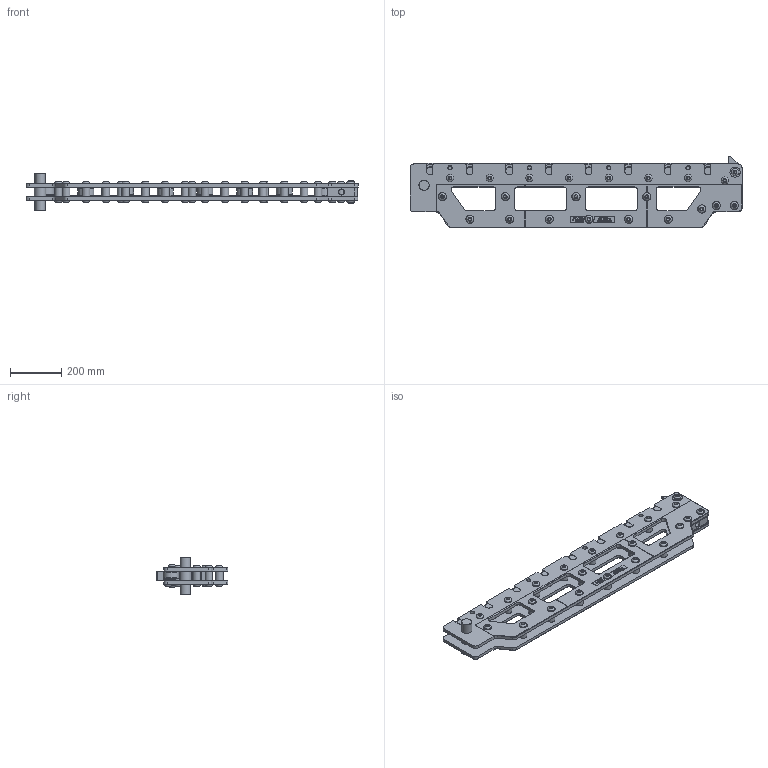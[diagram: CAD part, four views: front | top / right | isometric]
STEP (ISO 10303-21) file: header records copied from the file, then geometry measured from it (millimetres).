
FILE_DESCRIPTION(/* description */ ('CONSOLE PLATE'),/* implementation_level */ '2;1');
FILE_NAME(/* name */ 'C:\Users\jaccow\AppData\Local\Temp\Cadac\NetworkPub\step\FB941-950.iam.stp',/* time_stamp */ '2017-12-13T15:23:44+01:00',/* author */ ('Yue'),/* organization */ (''),/* preprocessor_version */ 'ST-DEVELOPER v16.1',/* originating_system */ 'Autodesk Inventor 2016',/* authorisation */ '');
FILE_SCHEMA (('AUTOMOTIVE_DESIGN { 1 0 10303 214 3 1 1 }'));
Products named in the file (16): FB960-101; FB942-026; FB943-026; FB763-186; CBE1625-0281E; CAE1160-1081A; CY148-055; FB765-044; FB767-104; FB769-104; FB963-690; FB771-101; EU120147-109; FB775-104; PP0489-996; FB941-950
Assembly tree (102 placements, depth 2):
  FB941-950
    FB960-101  x2
    FB942-026
    FB943-026
    FB763-186  x19
    CBE1625-0281E  x48
    CAE1160-1081A  x4
    CY148-055  x4
    FB765-044
    FB767-104
    FB769-104
    FB963-690
    FB771-101
    EU120147-109  x8
    FB775-104  x8
    PP0489-996  x2
Bounding box: 1297 x 280.92 x 145 mm (x, y, z)
Volume: 7980224.3 mm3; surface area: 2252688.9 mm2
Topology: 138 solids, 138 shells, 3854 faces, 9497 edges, 6230 vertices
Faces by surface type: plane 2225, bspline 658, cylinder 587, cone 192, torus 192
Full cylindrical faces by diameter (mm): 1.875 x8, 4.2 x8, 13.835 x26, 16 x48, 16.5 x4, 17 x56, 21.5 x1, 24.95 x1, 25 x2, 25.1 x1, 28 x48, 30 x39, 32 x24, 35 x8, 36.3 x8, 40 x6, 44.7 x8, 45 x1, 51 x32, 54.3 x16, 62 x8
Entity records: 82662 total; most frequent: CARTESIAN_POINT 23860, ORIENTED_EDGE 12650, DIRECTION 9218, EDGE_CURVE 6316, LINE 4490, VECTOR 4490, VERTEX_POINT 4278, EDGE_LOOP 2917
